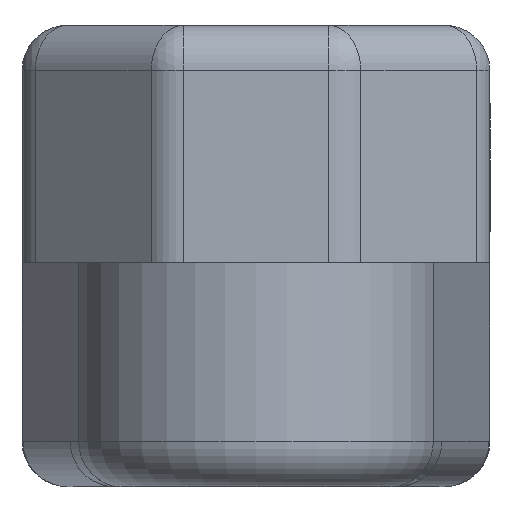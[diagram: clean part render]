
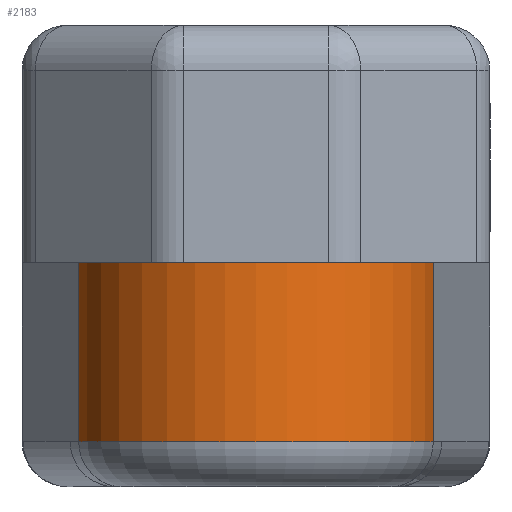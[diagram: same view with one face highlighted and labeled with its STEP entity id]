
A CAD part, left-side view. The second image highlights one B-rep face of the part: STEP entity #2183.
In plain terms, the highlighted cylindrical face has radius 8 mm (diameter 16 mm), a partial arc.
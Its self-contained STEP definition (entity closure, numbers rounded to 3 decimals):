
#41 = DIRECTION ( 'NONE',  ( -1., 0., 0. ) ) ;
#107 = CARTESIAN_POINT ( 'NONE',  ( -1.595, -7.839, 1.977 ) ) ;
#289 = DIRECTION ( 'NONE',  ( 0., 0., 1. ) ) ;
#303 = CARTESIAN_POINT ( 'NONE',  ( -1.595, -7.839, 9.9 ) ) ;
#313 = ORIENTED_EDGE ( 'NONE', *, *, #2104, .T. ) ;
#319 = DIRECTION ( 'NONE',  ( -1., 0., 0. ) ) ;
#348 = VERTEX_POINT ( 'NONE', #2172 ) ;
#372 = DIRECTION ( 'NONE',  ( -1., 0., 0. ) ) ;
#537 = DIRECTION ( 'NONE',  ( 0., 0., 1. ) ) ;
#546 = DIRECTION ( 'NONE',  ( 0., 0., -1. ) ) ;
#587 = CARTESIAN_POINT ( 'NONE',  ( 0., 0., 1.977 ) ) ;
#593 = AXIS2_PLACEMENT_3D ( 'NONE', #2688, #537, #319 ) ;
#794 = ORIENTED_EDGE ( 'NONE', *, *, #1656, .T. ) ;
#987 = CARTESIAN_POINT ( 'NONE',  ( -1.595, 7.839, 20.4 ) ) ;
#997 = CYLINDRICAL_SURFACE ( 'NONE', #2925, 8. ) ;
#1029 = CIRCLE ( 'NONE', #1633, 8. ) ;
#1083 = ORIENTED_EDGE ( 'NONE', *, *, #1955, .T. ) ;
#1254 = VERTEX_POINT ( 'NONE', #303 ) ;
#1255 = EDGE_CURVE ( 'NONE', #348, #1254, #1916, .T. ) ;
#1257 = CARTESIAN_POINT ( 'NONE',  ( -1.595, 7.839, 1.977 ) ) ;
#1517 = CARTESIAN_POINT ( 'NONE',  ( -1.595, -7.839, 20.4 ) ) ;
#1633 = AXIS2_PLACEMENT_3D ( 'NONE', #587, #2556, #372 ) ;
#1635 = VECTOR ( 'NONE', #289, 1000. ) ;
#1656 = EDGE_CURVE ( 'NONE', #2528, #2687, #1029, .T. ) ;
#1711 = DIRECTION ( 'NONE',  ( 0., 0., -1. ) ) ;
#1744 = LINE ( 'NONE', #987, #1838 ) ;
#1838 = VECTOR ( 'NONE', #546, 1000. ) ;
#1916 = CIRCLE ( 'NONE', #593, 8. ) ;
#1935 = CARTESIAN_POINT ( 'NONE',  ( 0., 0., 20.4 ) ) ;
#1955 = EDGE_CURVE ( 'NONE', #348, #2528, #1744, .T. ) ;
#2104 = EDGE_CURVE ( 'NONE', #2687, #1254, #2678, .T. ) ;
#2172 = CARTESIAN_POINT ( 'NONE',  ( -1.595, 7.839, 9.9 ) ) ;
#2183 = ADVANCED_FACE ( 'NONE', ( #2665 ), #997, .T. ) ;
#2209 = ORIENTED_EDGE ( 'NONE', *, *, #1255, .F. ) ;
#2528 = VERTEX_POINT ( 'NONE', #1257 ) ;
#2556 = DIRECTION ( 'NONE',  ( 0., 0., 1. ) ) ;
#2665 = FACE_OUTER_BOUND ( 'NONE', #2913, .T. ) ;
#2678 = LINE ( 'NONE', #1517, #1635 ) ;
#2687 = VERTEX_POINT ( 'NONE', #107 ) ;
#2688 = CARTESIAN_POINT ( 'NONE',  ( 0., 0., 9.9 ) ) ;
#2913 = EDGE_LOOP ( 'NONE', ( #1083, #794, #313, #2209 ) ) ;
#2925 = AXIS2_PLACEMENT_3D ( 'NONE', #1935, #1711, #41 ) ;
